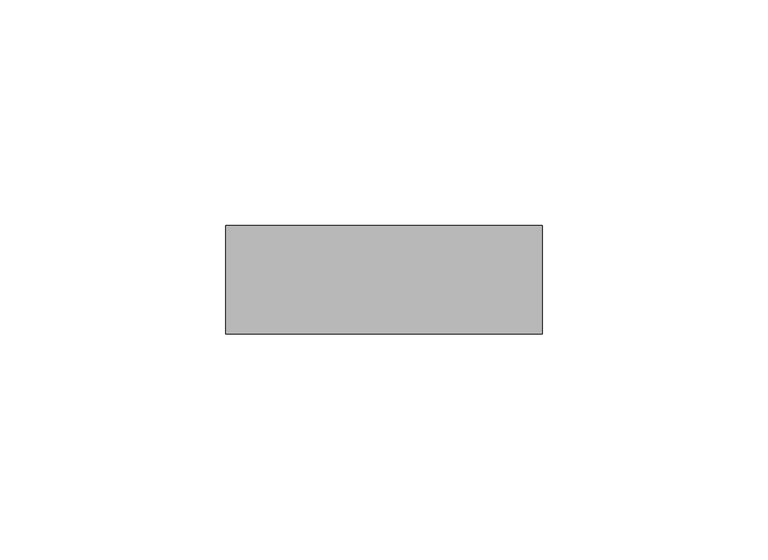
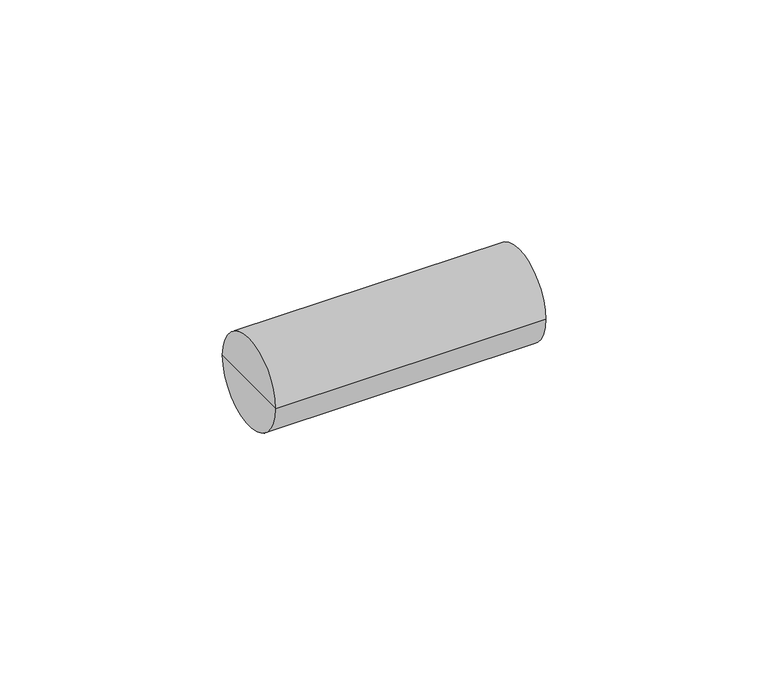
"""IFC4 building model written with IfcOpenShell, lengths in millimetres: cable carrier fitting geometry, Муфта_соед._для_труб : Муфта соед. для трубы 20мм (50шт)."""

from ifc_helpers import new_model, si_unit, frame, origin, place, context, project, spatial, circle_curve, source, transform, mapped, element, save
from ifc_brep_helpers import plane_surface, cylinder_surface, advanced_brep


def cable_carrier_fitting_5e57e737(model_context):
    return source(origin(), model_context, "Body", "AdvancedBrep", [
        advanced_brep(
        [(-35.0, -12.0, 0.0), (-35.0, 12.0, 0.0), (35.0, 12.0, 0.0), (35.0, -12.0, 0.0), (-35.0, 0.0, 0.0), (35.0, 0.0, 0.0)],
        [
            (0, 1, circle_curve(frame((-35.0, 0.0, 0.0), z_axis=(1.0, 0.0, 0.0), x_axis=(0.0, 1.0, 0.0)), 12.0)),
            (1, 2),
            (2, 3, circle_curve(frame((35.0, 0.0, 0.0), z_axis=(-1.0, 0.0, 0.0), x_axis=(0.0, 1.0, 0.0)), 12.0)),
            (3, 0),
            (1, 0, circle_curve(frame((-35.0, 0.0, 0.0), z_axis=(1.0, 0.0, 0.0), x_axis=(0.0, 1.0, 0.0)), 12.0)),
            (3, 2, circle_curve(frame((35.0, 0.0, 0.0), z_axis=(-1.0, 0.0, 0.0), x_axis=(0.0, 1.0, 0.0)), 12.0)),
            (4, 1),
            (0, 4),
            (2, 5),
            (5, 3),
        ],
        [
            cylinder_surface(frame((1960.0, 0.0, 0.0), z_axis=(-1.0, 0.0, 0.0), x_axis=(0.0, 1.0, 0.0)), 12.0),
            plane_surface(frame((-35.0, 0.0, 0.0), z_axis=(-1.0, 0.0, 0.0), x_axis=(0.0, 1.0, 0.0))),
            plane_surface(frame((35.0, 0.0, 0.0), z_axis=(1.0, 0.0, 0.0), x_axis=(0.0, 1.0, 0.0))),
        ],
        [
            (0, [[1, 2, 3, 4]]),
            (0, [[5, -4, 6, -2]]),
            (1, [[7, -1, 8]]),
            (1, [[-8, -5, -7]]),
            (2, [[-3, 9, 10]]),
            (2, [[-6, -10, -9]]),
        ],
    ),
    ])


if __name__ == "__main__":
    model = new_model("IFC4")
    model_context = context("Model", 3, world=origin())
    ifc_project = project(units=[si_unit("LENGTHUNIT", "METRE", prefix="MILLI")], contexts=[model_context])
    site = spatial("IfcSite", under=ifc_project)
    building = spatial("IfcBuilding", under=site)
    placement = place(None, origin())
    cable_carrier_fitting_shape = cable_carrier_fitting_5e57e737(model_context)
    element("IfcCableCarrierFitting", 1, ObjectType="Муфта_соед._для_труб : Муфта соед. для трубы 20мм (50шт)", at=placement, inside=building, context=model_context, shape_type="MappedRepresentation", body=[
        mapped(cable_carrier_fitting_shape, transform((0.0, 0.0, 0.0), x_axis=(1.0, 0.0, 0.0), y_axis=(0.0, 1.0, 0.0), z_axis=(0.0, 0.0, 1.0))),
    ])
    save(model, "model.ifc")
